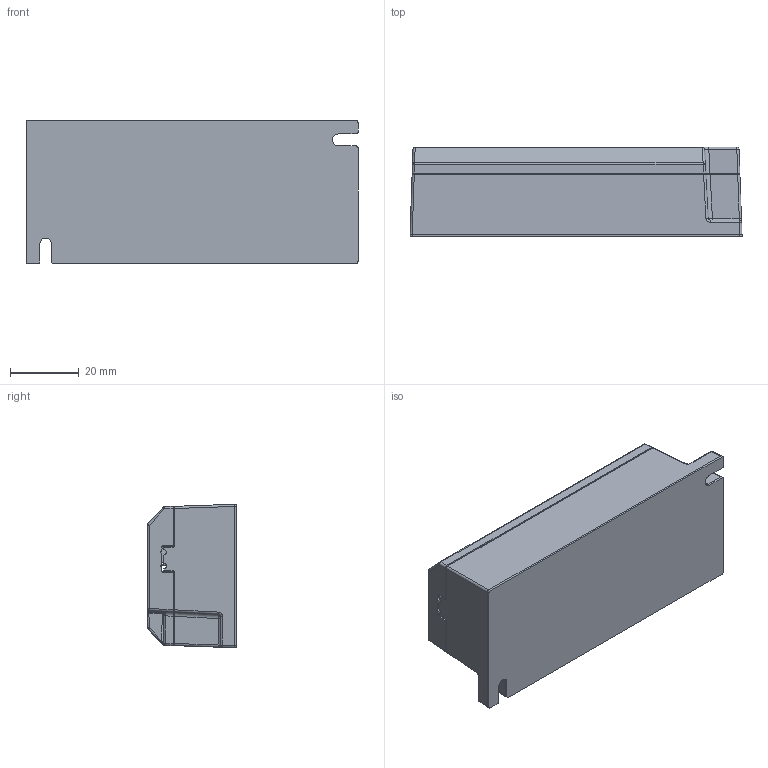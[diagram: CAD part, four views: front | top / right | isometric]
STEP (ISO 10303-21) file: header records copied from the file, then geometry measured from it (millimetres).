
FILE_DESCRIPTION (( 'STEP AP214' ), '1' );
FILE_NAME ('ILOC-100 1134 WITH HS.STEP', '2015-07-17T13:55:15', ( '' ), ( '' ), 'SwSTEP 2.0', 'SolidWorks 2015', '' );
FILE_SCHEMA (( 'AUTOMOTIVE_DESIGN' ));
Length unit declared in the file: millimetre
Products named in the file (6): ILOC-102; ILOC-101; ILOC-100 1134 WITH HS; Part2^ILOC-100; ILOC-200; ILOC-201
Assembly tree (5 placements, depth 3):
  ILOC-100 1134 WITH HS
    ILOC-101
    ILOC-102
    ILOC-200
      ILOC-201
    Part2^ILOC-100
Bounding box: 96.91 x 26.19 x 41.89 mm (x, y, z)
Volume: 23522.4 mm3; surface area: 37842.6 mm2
Topology: 4 solids, 4 shells, 1495 faces, 3630 edges, 2073 vertices
Faces by surface type: cylinder 531, plane 502, bspline 275, sphere 114, torus 42, cone 31
Entity records: 50384 total; most frequent: CARTESIAN_POINT 17899, ORIENTED_EDGE 7064, DIRECTION 6198, EDGE_CURVE 3532, AXIS2_PLACEMENT_3D 2129, VERTEX_POINT 2071, VECTOR 1940, LINE 1940
